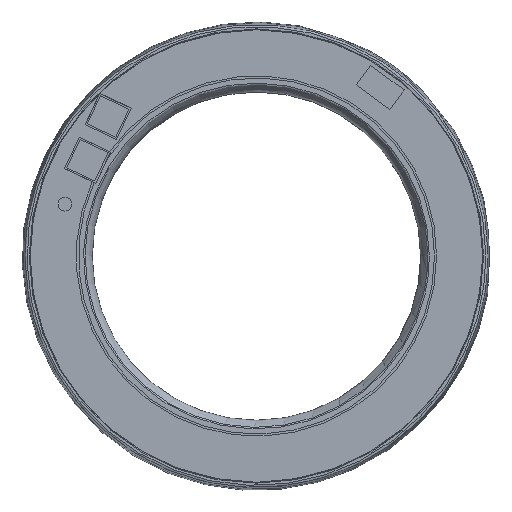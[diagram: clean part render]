
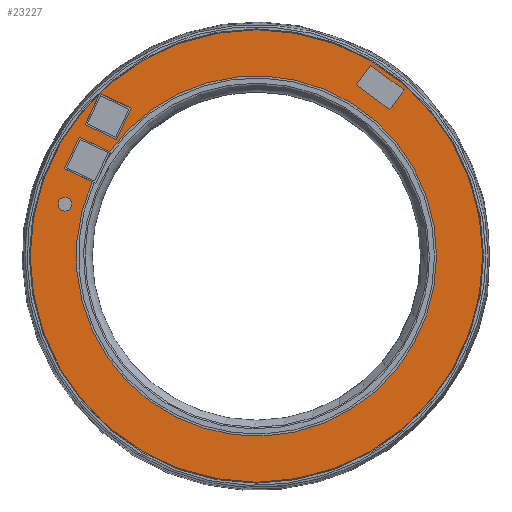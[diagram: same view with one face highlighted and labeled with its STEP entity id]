
A CAD part, top view. The second image highlights one B-rep face of the part: STEP entity #23227.
In plain terms, the highlighted planar face has unit normal (0, 0, 1).
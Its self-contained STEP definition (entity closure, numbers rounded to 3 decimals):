
#23227 = ADVANCED_FACE('',(#23228,#23239,#23283,#23294,#23328),#23362,
  .T.);
#23228 = FACE_BOUND('',#23229,.T.);
#23229 = EDGE_LOOP('',(#23230));
#23230 = ORIENTED_EDGE('',*,*,#23231,.T.);
#23231 = EDGE_CURVE('',#23232,#23232,#23234,.T.);
#23232 = VERTEX_POINT('',#23233);
#23233 = CARTESIAN_POINT('',(13.09,0.,5.1));
#23234 = CIRCLE('',#23235,13.09);
#23235 = AXIS2_PLACEMENT_3D('',#23236,#23237,#23238);
#23236 = CARTESIAN_POINT('',(0.,0.,5.1));
#23237 = DIRECTION('',(0.,0.,1.));
#23238 = DIRECTION('',(1.,0.,0.));
#23239 = FACE_BOUND('',#23240,.T.);
#23240 = EDGE_LOOP('',(#23241,#23251,#23259,#23267,#23276));
#23241 = ORIENTED_EDGE('',*,*,#23242,.F.);
#23242 = EDGE_CURVE('',#23243,#23245,#23247,.T.);
#23243 = VERTEX_POINT('',#23244);
#23244 = CARTESIAN_POINT('',(-11.103,5.059,5.1));
#23245 = VERTEX_POINT('',#23246);
#23246 = CARTESIAN_POINT('',(-9.491,4.3,5.1));
#23247 = LINE('',#23248,#23249);
#23248 = CARTESIAN_POINT('',(-4.678,2.036,5.1));
#23249 = VECTOR('',#23250,1.);
#23250 = DIRECTION('',(0.905,-0.426,0.));
#23251 = ORIENTED_EDGE('',*,*,#23252,.F.);
#23252 = EDGE_CURVE('',#23253,#23243,#23255,.T.);
#23253 = VERTEX_POINT('',#23254);
#23254 = CARTESIAN_POINT('',(-10.251,6.868,5.1));
#23255 = LINE('',#23256,#23257);
#23256 = CARTESIAN_POINT('',(-10.645,6.031,5.1));
#23257 = VECTOR('',#23258,1.);
#23258 = DIRECTION('',(-0.426,-0.905,0.));
#23259 = ORIENTED_EDGE('',*,*,#23260,.T.);
#23260 = EDGE_CURVE('',#23253,#23261,#23263,.T.);
#23261 = VERTEX_POINT('',#23262);
#23262 = CARTESIAN_POINT('',(-8.491,6.04,5.1));
#23263 = LINE('',#23264,#23265);
#23264 = CARTESIAN_POINT('',(-3.827,3.845,5.1));
#23265 = VECTOR('',#23266,1.);
#23266 = DIRECTION('',(0.905,-0.426,0.));
#23267 = ORIENTED_EDGE('',*,*,#23268,.F.);
#23268 = EDGE_CURVE('',#23269,#23261,#23271,.T.);
#23269 = VERTEX_POINT('',#23270);
#23270 = CARTESIAN_POINT('',(10.42,0.,5.1));
#23271 = CIRCLE('',#23272,10.42);
#23272 = AXIS2_PLACEMENT_3D('',#23273,#23274,#23275);
#23273 = CARTESIAN_POINT('',(0.,0.,5.1));
#23274 = DIRECTION('',(0.,0.,1.));
#23275 = DIRECTION('',(1.,0.,0.));
#23276 = ORIENTED_EDGE('',*,*,#23277,.F.);
#23277 = EDGE_CURVE('',#23245,#23269,#23278,.T.);
#23278 = CIRCLE('',#23279,10.42);
#23279 = AXIS2_PLACEMENT_3D('',#23280,#23281,#23282);
#23280 = CARTESIAN_POINT('',(0.,0.,5.1));
#23281 = DIRECTION('',(0.,0.,1.));
#23282 = DIRECTION('',(1.,0.,0.));
#23283 = FACE_BOUND('',#23284,.T.);
#23284 = EDGE_LOOP('',(#23285));
#23285 = ORIENTED_EDGE('',*,*,#23286,.T.);
#23286 = EDGE_CURVE('',#23287,#23287,#23289,.T.);
#23287 = VERTEX_POINT('',#23288);
#23288 = CARTESIAN_POINT('',(-11.476,3.002,5.1));
#23289 = CIRCLE('',#23290,0.4);
#23290 = AXIS2_PLACEMENT_3D('',#23291,#23292,#23293);
#23291 = CARTESIAN_POINT('',(-11.076,3.002,5.1));
#23292 = DIRECTION('',(0.,0.,-1.));
#23293 = DIRECTION('',(-1.,0.,0.));
#23294 = FACE_BOUND('',#23295,.T.);
#23295 = EDGE_LOOP('',(#23296,#23306,#23314,#23322));
#23296 = ORIENTED_EDGE('',*,*,#23297,.F.);
#23297 = EDGE_CURVE('',#23298,#23300,#23302,.T.);
#23298 = VERTEX_POINT('',#23299);
#23299 = CARTESIAN_POINT('',(-9.911,7.592,5.1));
#23300 = VERTEX_POINT('',#23301);
#23301 = CARTESIAN_POINT('',(-8.101,6.741,5.1));
#23302 = LINE('',#23303,#23304);
#23303 = CARTESIAN_POINT('',(-3.486,4.569,5.1));
#23304 = VECTOR('',#23305,1.);
#23305 = DIRECTION('',(0.905,-0.426,0.));
#23306 = ORIENTED_EDGE('',*,*,#23307,.F.);
#23307 = EDGE_CURVE('',#23308,#23298,#23310,.T.);
#23308 = VERTEX_POINT('',#23309);
#23309 = CARTESIAN_POINT('',(-9.059,9.402,5.1));
#23310 = LINE('',#23311,#23312);
#23311 = CARTESIAN_POINT('',(-10.049,7.298,5.1));
#23312 = VECTOR('',#23313,1.);
#23313 = DIRECTION('',(-0.426,-0.905,0.));
#23314 = ORIENTED_EDGE('',*,*,#23315,.T.);
#23315 = EDGE_CURVE('',#23308,#23316,#23318,.T.);
#23316 = VERTEX_POINT('',#23317);
#23317 = CARTESIAN_POINT('',(-7.249,8.55,5.1));
#23318 = LINE('',#23319,#23320);
#23319 = CARTESIAN_POINT('',(-2.635,6.379,5.1));
#23320 = VECTOR('',#23321,1.);
#23321 = DIRECTION('',(0.905,-0.426,0.));
#23322 = ORIENTED_EDGE('',*,*,#23323,.T.);
#23323 = EDGE_CURVE('',#23316,#23300,#23324,.T.);
#23324 = LINE('',#23325,#23326);
#23325 = CARTESIAN_POINT('',(-8.239,6.447,5.1));
#23326 = VECTOR('',#23327,1.);
#23327 = DIRECTION('',(-0.426,-0.905,0.));
#23328 = FACE_BOUND('',#23329,.T.);
#23329 = EDGE_LOOP('',(#23330,#23340,#23348,#23356));
#23330 = ORIENTED_EDGE('',*,*,#23331,.F.);
#23331 = EDGE_CURVE('',#23332,#23334,#23336,.T.);
#23332 = VERTEX_POINT('',#23333);
#23333 = CARTESIAN_POINT('',(7.716,8.477,5.1));
#23334 = VERTEX_POINT('',#23335);
#23335 = CARTESIAN_POINT('',(8.545,9.605,5.1));
#23336 = LINE('',#23337,#23338);
#23337 = CARTESIAN_POINT('',(7.716,8.477,5.1));
#23338 = VECTOR('',#23339,1.);
#23339 = DIRECTION('',(0.592,0.806,0.));
#23340 = ORIENTED_EDGE('',*,*,#23341,.T.);
#23341 = EDGE_CURVE('',#23332,#23342,#23344,.T.);
#23342 = VERTEX_POINT('',#23343);
#23343 = CARTESIAN_POINT('',(5.782,9.898,5.1));
#23344 = LINE('',#23345,#23346);
#23345 = CARTESIAN_POINT('',(7.716,8.477,5.1));
#23346 = VECTOR('',#23347,1.);
#23347 = DIRECTION('',(-0.806,0.592,0.));
#23348 = ORIENTED_EDGE('',*,*,#23349,.T.);
#23349 = EDGE_CURVE('',#23342,#23350,#23352,.T.);
#23350 = VERTEX_POINT('',#23351);
#23351 = CARTESIAN_POINT('',(6.611,11.026,5.1));
#23352 = LINE('',#23353,#23354);
#23353 = CARTESIAN_POINT('',(5.782,9.898,5.1));
#23354 = VECTOR('',#23355,1.);
#23355 = DIRECTION('',(0.592,0.806,0.));
#23356 = ORIENTED_EDGE('',*,*,#23357,.F.);
#23357 = EDGE_CURVE('',#23334,#23350,#23358,.T.);
#23358 = LINE('',#23359,#23360);
#23359 = CARTESIAN_POINT('',(8.545,9.605,5.1));
#23360 = VECTOR('',#23361,1.);
#23361 = DIRECTION('',(-0.806,0.592,0.));
#23362 = PLANE('',#23363);
#23363 = AXIS2_PLACEMENT_3D('',#23364,#23365,#23366);
#23364 = CARTESIAN_POINT('',(0.,0.,5.1));
#23365 = DIRECTION('',(0.,0.,1.));
#23366 = DIRECTION('',(1.,0.,0.));
